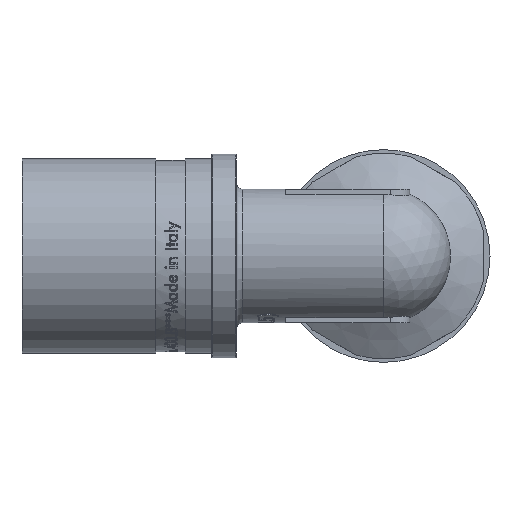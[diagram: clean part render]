
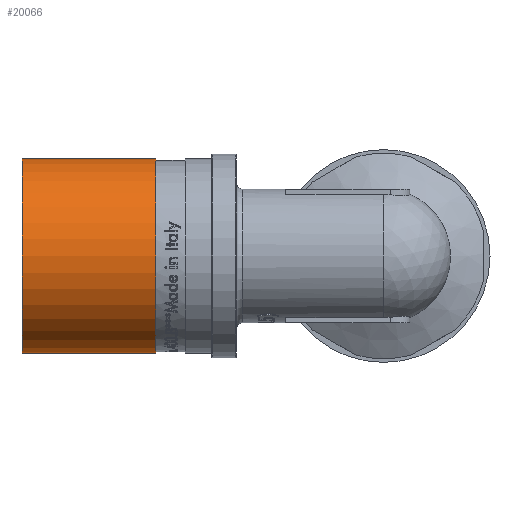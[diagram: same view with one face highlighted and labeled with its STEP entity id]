
A CAD part, front view. The second image highlights one B-rep face of the part: STEP entity #20066.
In plain terms, the highlighted cylindrical face has radius 14.925 mm (diameter 29.85 mm), a full revolution.
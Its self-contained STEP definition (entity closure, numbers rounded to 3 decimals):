
#1429=CIRCLE('',#21026,14.925);
#1430=CIRCLE('',#21027,14.925);
#1431=CIRCLE('',#21029,14.925);
#1432=CIRCLE('',#21030,14.925);
#2612=FACE_OUTER_BOUND('',#3798,.T.);
#3798=EDGE_LOOP('',(#18567,#18568,#18569,#18570,#18571,#18572));
#6364=LINE('',#45311,#7881);
#7881=VECTOR('',#24511,14.925);
#9788=VERTEX_POINT('',#45302);
#9789=VERTEX_POINT('',#45303);
#9790=VERTEX_POINT('',#45307);
#9791=VERTEX_POINT('',#45308);
#12747=EDGE_CURVE('',#9788,#9789,#1429,.T.);
#12748=EDGE_CURVE('',#9789,#9788,#1430,.T.);
#12749=EDGE_CURVE('',#9790,#9791,#1431,.T.);
#12750=EDGE_CURVE('',#9791,#9790,#1432,.T.);
#12751=EDGE_CURVE('',#9791,#9789,#6364,.T.);
#18567=ORIENTED_EDGE('',*,*,#12749,.F.);
#18568=ORIENTED_EDGE('',*,*,#12750,.F.);
#18569=ORIENTED_EDGE('',*,*,#12751,.T.);
#18570=ORIENTED_EDGE('',*,*,#12748,.T.);
#18571=ORIENTED_EDGE('',*,*,#12747,.T.);
#18572=ORIENTED_EDGE('',*,*,#12751,.F.);
#19013=CYLINDRICAL_SURFACE('',#21028,14.925);
#20066=ADVANCED_FACE('',(#2612),#19013,.T.);
#21026=AXIS2_PLACEMENT_3D('',#45304,#24501,#24502);
#21027=AXIS2_PLACEMENT_3D('',#45305,#24503,#24504);
#21028=AXIS2_PLACEMENT_3D('',#45306,#24505,#24506);
#21029=AXIS2_PLACEMENT_3D('',#45309,#24507,#24508);
#21030=AXIS2_PLACEMENT_3D('',#45310,#24509,#24510);
#24501=DIRECTION('center_axis',(1.,0.,0.));
#24502=DIRECTION('ref_axis',(0.,0.,-1.));
#24503=DIRECTION('center_axis',(1.,0.,0.));
#24504=DIRECTION('ref_axis',(0.,0.,-1.));
#24505=DIRECTION('center_axis',(1.,0.,0.));
#24506=DIRECTION('ref_axis',(0.,1.,0.));
#24507=DIRECTION('center_axis',(1.,0.,0.));
#24508=DIRECTION('ref_axis',(0.,0.,-1.));
#24509=DIRECTION('center_axis',(1.,0.,0.));
#24510=DIRECTION('ref_axis',(0.,0.,-1.));
#24511=DIRECTION('',(-1.,0.,0.));
#45302=CARTESIAN_POINT('',(-55.412,14.925,0.));
#45303=CARTESIAN_POINT('',(-55.412,-14.925,0.));
#45304=CARTESIAN_POINT('Origin',(-55.412,0.,0.));
#45305=CARTESIAN_POINT('Origin',(-55.412,0.,0.));
#45306=CARTESIAN_POINT('Origin',(-45.162,0.,0.));
#45307=CARTESIAN_POINT('',(-34.912,14.925,0.));
#45308=CARTESIAN_POINT('',(-34.912,-14.925,0.));
#45309=CARTESIAN_POINT('Origin',(-34.912,0.,0.));
#45310=CARTESIAN_POINT('Origin',(-34.912,0.,0.));
#45311=CARTESIAN_POINT('',(-45.162,-14.925,0.));
